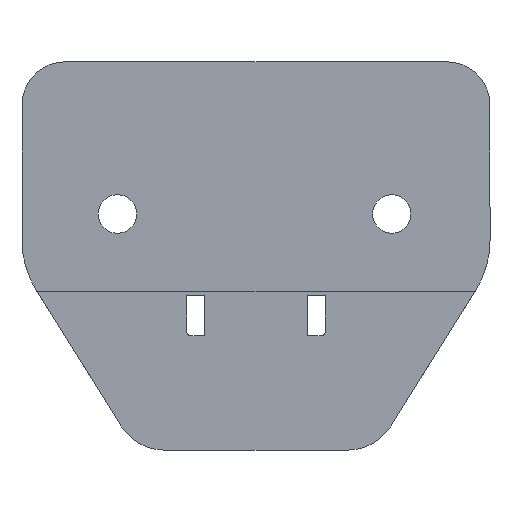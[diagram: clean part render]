
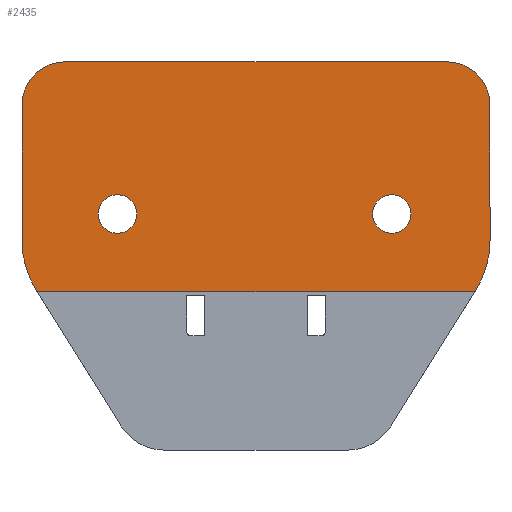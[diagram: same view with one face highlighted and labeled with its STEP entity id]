
A CAD part, front view. The second image highlights one B-rep face of the part: STEP entity #2435.
In plain terms, the highlighted planar face has unit normal (0, -1, 0).
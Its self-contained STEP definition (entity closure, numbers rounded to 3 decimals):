
#17 = VECTOR ( 'NONE', #3072, 1000. ) ;
#25 = DIRECTION ( 'NONE',  ( 1., 0., 0. ) ) ;
#41 = CARTESIAN_POINT ( 'NONE',  ( -3.193, -12.743, -3.995 ) ) ;
#48 = VECTOR ( 'NONE', #1280, 1000. ) ;
#89 = EDGE_CURVE ( 'NONE', #1353, #3015, #2406, .T. ) ;
#99 = CARTESIAN_POINT ( 'NONE',  ( -12.988, -12.743, 4.93 ) ) ;
#104 = CARTESIAN_POINT ( 'NONE',  ( -1.522, -12.743, -1.32 ) ) ;
#106 = DIRECTION ( 'NONE',  ( 1., 0., 0. ) ) ;
#115 = EDGE_CURVE ( 'NONE', #492, #2636, #2885, .T. ) ;
#118 = DIRECTION ( 'NONE',  ( 0., -1., 0. ) ) ;
#133 = CIRCLE ( 'NONE', #1827, 2.245 ) ;
#154 = VECTOR ( 'NONE', #3256, 1000. ) ;
#156 = CARTESIAN_POINT ( 'NONE',  ( -56.122, -12.743, 1.834 ) ) ;
#224 = CARTESIAN_POINT ( 'NONE',  ( -1.522, -12.743, 1.834 ) ) ;
#237 = EDGE_LOOP ( 'NONE', ( #2455, #2796 ) ) ;
#247 = CARTESIAN_POINT ( 'NONE',  ( -54.45, -12.743, -3.995 ) ) ;
#250 = CARTESIAN_POINT ( 'NONE',  ( -12.522, -12.743, 1.834 ) ) ;
#260 = ORIENTED_EDGE ( 'NONE', *, *, #3357, .T. ) ;
#313 = DIRECTION ( 'NONE',  ( 0., 0., -1. ) ) ;
#392 = CARTESIAN_POINT ( 'NONE',  ( -51.122, -12.743, 17.68 ) ) ;
#492 = VERTEX_POINT ( 'NONE', #1308 ) ;
#523 = DIRECTION ( 'NONE',  ( 1., 0., 0. ) ) ;
#585 = LINE ( 'NONE', #104, #3469 ) ;
#638 = CARTESIAN_POINT ( 'NONE',  ( -1.522, -12.743, -4.12 ) ) ;
#649 = AXIS2_PLACEMENT_3D ( 'NONE', #250, #2228, #523 ) ;
#663 = AXIS2_PLACEMENT_3D ( 'NONE', #99, #118, #25 ) ;
#698 = DIRECTION ( 'NONE',  ( 0., -1., 0. ) ) ;
#745 = CARTESIAN_POINT ( 'NONE',  ( -51.122, -12.743, 22.68 ) ) ;
#748 = EDGE_CURVE ( 'NONE', #2636, #1722, #3102, .T. ) ;
#780 = ORIENTED_EDGE ( 'NONE', *, *, #2764, .F. ) ;
#792 = DIRECTION ( 'NONE',  ( 1., 0., 0. ) ) ;
#796 = CARTESIAN_POINT ( 'NONE',  ( -6.522, -12.743, 17.68 ) ) ;
#800 = CARTESIAN_POINT ( 'NONE',  ( -3.271, -12.743, -4.12 ) ) ;
#861 = VERTEX_POINT ( 'NONE', #2781 ) ;
#863 = VECTOR ( 'NONE', #930, 1000. ) ;
#930 = DIRECTION ( 'NONE',  ( 0., 0., -1. ) ) ;
#1030 = EDGE_CURVE ( 'NONE', #861, #3512, #2315, .T. ) ;
#1094 = DIRECTION ( 'NONE',  ( 0., 1., 0. ) ) ;
#1164 = VERTEX_POINT ( 'NONE', #41 ) ;
#1253 = DIRECTION ( 'NONE',  ( 1., 0., 0. ) ) ;
#1280 = DIRECTION ( 'NONE',  ( -1., 0., 0. ) ) ;
#1284 = DIRECTION ( 'NONE',  ( 0., -1., 0. ) ) ;
#1294 = CARTESIAN_POINT ( 'NONE',  ( -44.988, -12.743, 4.93 ) ) ;
#1308 = CARTESIAN_POINT ( 'NONE',  ( -6.522, -12.743, 22.68 ) ) ;
#1332 = FACE_OUTER_BOUND ( 'NONE', #3005, .T. ) ;
#1353 = VERTEX_POINT ( 'NONE', #1767 ) ;
#1426 = AXIS2_PLACEMENT_3D ( 'NONE', #796, #1094, #792 ) ;
#1444 = EDGE_LOOP ( 'NONE', ( #2721, #3326 ) ) ;
#1476 = EDGE_CURVE ( 'NONE', #3015, #1353, #133, .T. ) ;
#1484 = CARTESIAN_POINT ( 'NONE',  ( -54.372, -12.743, -4.12 ) ) ;
#1487 = EDGE_CURVE ( 'NONE', #2151, #2564, #2307, .T. ) ;
#1518 = LINE ( 'NONE', #1484, #17 ) ;
#1519 = DIRECTION ( 'NONE',  ( 1., 0., 0. ) ) ;
#1547 = CIRCLE ( 'NONE', #2276, 2.245 ) ;
#1553 = CARTESIAN_POINT ( 'NONE',  ( -12.988, -12.743, 4.93 ) ) ;
#1589 = CARTESIAN_POINT ( 'NONE',  ( -56.122, -12.743, 17.68 ) ) ;
#1594 = DIRECTION ( 'NONE',  ( 1., 0., 0. ) ) ;
#1652 = DIRECTION ( 'NONE',  ( 0., -1., 0. ) ) ;
#1722 = VERTEX_POINT ( 'NONE', #224 ) ;
#1767 = CARTESIAN_POINT ( 'NONE',  ( -10.743, -12.743, 4.93 ) ) ;
#1770 = EDGE_CURVE ( 'NONE', #1164, #1722, #3527, .T. ) ;
#1801 = DIRECTION ( 'NONE',  ( 0.53, 0., 0.848 ) ) ;
#1827 = AXIS2_PLACEMENT_3D ( 'NONE', #1553, #3228, #1253 ) ;
#1860 = CARTESIAN_POINT ( 'NONE',  ( -56.122, -12.743, -4.12 ) ) ;
#1882 = ORIENTED_EDGE ( 'NONE', *, *, #1941, .F. ) ;
#1922 = VERTEX_POINT ( 'NONE', #745 ) ;
#1936 = ORIENTED_EDGE ( 'NONE', *, *, #3510, .F. ) ;
#1941 = EDGE_CURVE ( 'NONE', #2053, #1922, #3017, .T. ) ;
#1984 = AXIS2_PLACEMENT_3D ( 'NONE', #3255, #1284, #2985 ) ;
#2005 = FACE_BOUND ( 'NONE', #237, .T. ) ;
#2027 = AXIS2_PLACEMENT_3D ( 'NONE', #2673, #698, #2390 ) ;
#2053 = VERTEX_POINT ( 'NONE', #2243 ) ;
#2108 = PLANE ( 'NONE',  #2963 ) ;
#2124 = ORIENTED_EDGE ( 'NONE', *, *, #2916, .F. ) ;
#2138 = CARTESIAN_POINT ( 'NONE',  ( -42.743, -12.743, 4.93 ) ) ;
#2151 = VERTEX_POINT ( 'NONE', #156 ) ;
#2204 = ORIENTED_EDGE ( 'NONE', *, *, #748, .F. ) ;
#2228 = DIRECTION ( 'NONE',  ( 0., -1., 0. ) ) ;
#2230 = VERTEX_POINT ( 'NONE', #800 ) ;
#2243 = CARTESIAN_POINT ( 'NONE',  ( -56.122, -12.743, 17.68 ) ) ;
#2267 = VECTOR ( 'NONE', #1519, 1000. ) ;
#2276 = AXIS2_PLACEMENT_3D ( 'NONE', #1294, #3262, #1594 ) ;
#2277 = ORIENTED_EDGE ( 'NONE', *, *, #1770, .T. ) ;
#2307 = CIRCLE ( 'NONE', #2027, 11. ) ;
#2315 = CIRCLE ( 'NONE', #1984, 2.245 ) ;
#2382 = EDGE_CURVE ( 'NONE', #2564, #2680, #1518, .T. ) ;
#2390 = DIRECTION ( 'NONE',  ( 1., 0., 0. ) ) ;
#2406 = CIRCLE ( 'NONE', #663, 2.245 ) ;
#2435 = ADVANCED_FACE ( 'NONE', ( #1332, #3459, #2005 ), #2108, .T. ) ;
#2455 = ORIENTED_EDGE ( 'NONE', *, *, #2924, .F. ) ;
#2564 = VERTEX_POINT ( 'NONE', #247 ) ;
#2595 = CARTESIAN_POINT ( 'NONE',  ( -54.372, -12.743, -4.12 ) ) ;
#2636 = VERTEX_POINT ( 'NONE', #3142 ) ;
#2673 = CARTESIAN_POINT ( 'NONE',  ( -45.122, -12.743, 1.834 ) ) ;
#2680 = VERTEX_POINT ( 'NONE', #2595 ) ;
#2721 = ORIENTED_EDGE ( 'NONE', *, *, #89, .F. ) ;
#2732 = AXIS2_PLACEMENT_3D ( 'NONE', #392, #3473, #106 ) ;
#2745 = CARTESIAN_POINT ( 'NONE',  ( -15.234, -12.743, 4.93 ) ) ;
#2764 = EDGE_CURVE ( 'NONE', #1922, #492, #2830, .T. ) ;
#2781 = CARTESIAN_POINT ( 'NONE',  ( -47.234, -12.743, 4.93 ) ) ;
#2796 = ORIENTED_EDGE ( 'NONE', *, *, #1030, .F. ) ;
#2830 = LINE ( 'NONE', #3453, #2267 ) ;
#2885 = CIRCLE ( 'NONE', #1426, 5. ) ;
#2916 = EDGE_CURVE ( 'NONE', #2230, #2680, #3044, .T. ) ;
#2924 = EDGE_CURVE ( 'NONE', #3512, #861, #1547, .T. ) ;
#2963 = AXIS2_PLACEMENT_3D ( 'NONE', #3543, #1652, #313 ) ;
#2985 = DIRECTION ( 'NONE',  ( 1., 0., 0. ) ) ;
#3005 = EDGE_LOOP ( 'NONE', ( #260, #2277, #2204, #3112, #780, #1882, #1936, #3466, #3508, #2124 ) ) ;
#3015 = VERTEX_POINT ( 'NONE', #2745 ) ;
#3017 = CIRCLE ( 'NONE', #2732, 5. ) ;
#3044 = LINE ( 'NONE', #1860, #48 ) ;
#3063 = LINE ( 'NONE', #1589, #154 ) ;
#3072 = DIRECTION ( 'NONE',  ( 0.53, 0., -0.848 ) ) ;
#3102 = LINE ( 'NONE', #638, #863 ) ;
#3112 = ORIENTED_EDGE ( 'NONE', *, *, #115, .F. ) ;
#3142 = CARTESIAN_POINT ( 'NONE',  ( -1.522, -12.743, 17.68 ) ) ;
#3228 = DIRECTION ( 'NONE',  ( 0., -1., 0. ) ) ;
#3255 = CARTESIAN_POINT ( 'NONE',  ( -44.988, -12.743, 4.93 ) ) ;
#3256 = DIRECTION ( 'NONE',  ( 0., 0., 1. ) ) ;
#3262 = DIRECTION ( 'NONE',  ( 0., -1., 0. ) ) ;
#3326 = ORIENTED_EDGE ( 'NONE', *, *, #1476, .F. ) ;
#3357 = EDGE_CURVE ( 'NONE', #2230, #1164, #585, .T. ) ;
#3453 = CARTESIAN_POINT ( 'NONE',  ( -6.522, -12.743, 22.68 ) ) ;
#3459 = FACE_BOUND ( 'NONE', #1444, .T. ) ;
#3466 = ORIENTED_EDGE ( 'NONE', *, *, #1487, .T. ) ;
#3469 = VECTOR ( 'NONE', #1801, 1000. ) ;
#3473 = DIRECTION ( 'NONE',  ( 0., 1., 0. ) ) ;
#3508 = ORIENTED_EDGE ( 'NONE', *, *, #2382, .T. ) ;
#3510 = EDGE_CURVE ( 'NONE', #2151, #2053, #3063, .T. ) ;
#3512 = VERTEX_POINT ( 'NONE', #2138 ) ;
#3527 = CIRCLE ( 'NONE', #649, 11. ) ;
#3543 = CARTESIAN_POINT ( 'NONE',  ( -37.688, -12.743, -2.92 ) ) ;
